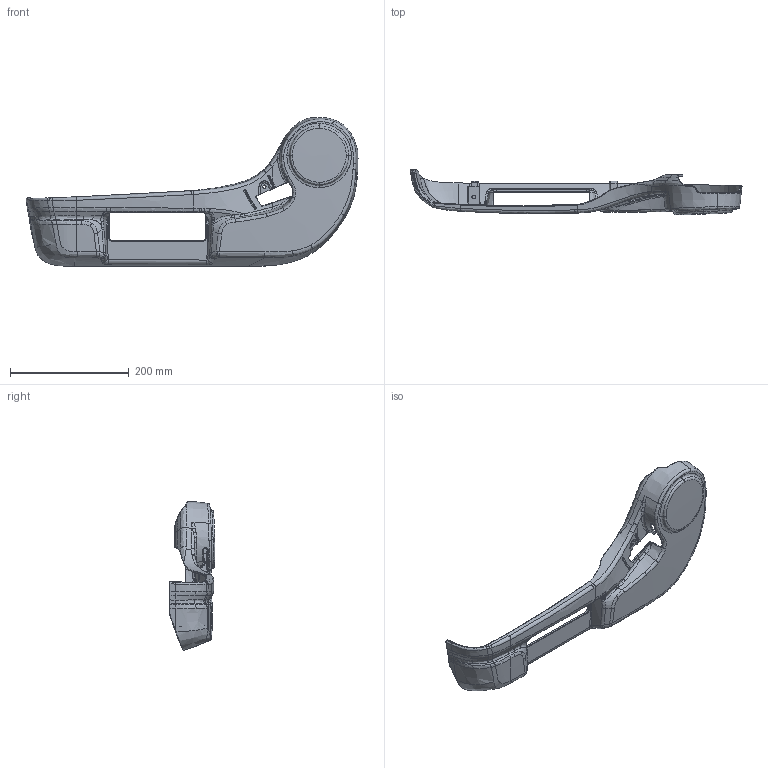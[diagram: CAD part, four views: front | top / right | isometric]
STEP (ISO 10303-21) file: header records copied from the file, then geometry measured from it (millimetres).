
FILE_DESCRIPTION(('CATIA V5 STEP Exchange'),'2;1');
FILE_NAME('C:\Users\lizhaofeng\Desktop\SHT0013366.stp','2021-06-17T06:00:33+00:00',('none'),('none'),'CATIA Version 5 Release 20 GA (IN-10)','CATIA V5 STEP AP203 Edition 2','none');
FILE_SCHEMA(('AP203_CONFIGURATION_CONTROLLED_3D_DESIGN_OF_MECHANICAL_PARTS_AND_ASSEMBLIES_MIM_LF { 1 0 10303 403 2 1 2}'));
Products named in the file (1): SHT0013366
Bounding box: 559.17 x 76.68 x 251.01 mm (x, y, z)
Volume: 289665.3 mm3; surface area: 245054.9 mm2
Topology: 1 solids, 1 shells, 1072 faces, 4552 edges, 3469 vertices
Faces by surface type: bspline 819, plane 138, cylinder 84, torus 14, sphere 8, cone 7, extrusion 2
Entity records: 160833 total; most frequent: CARTESIAN_POINT 133578, ORIENTED_EDGE 9084, EDGE_CURVE 4542, B_SPLINE_CURVE_WITH_KNOTS 3973, VERTEX_POINT 3469, EDGE_LOOP 1083, ADVANCED_FACE 1072, FACE_OUTER_BOUND 1072
